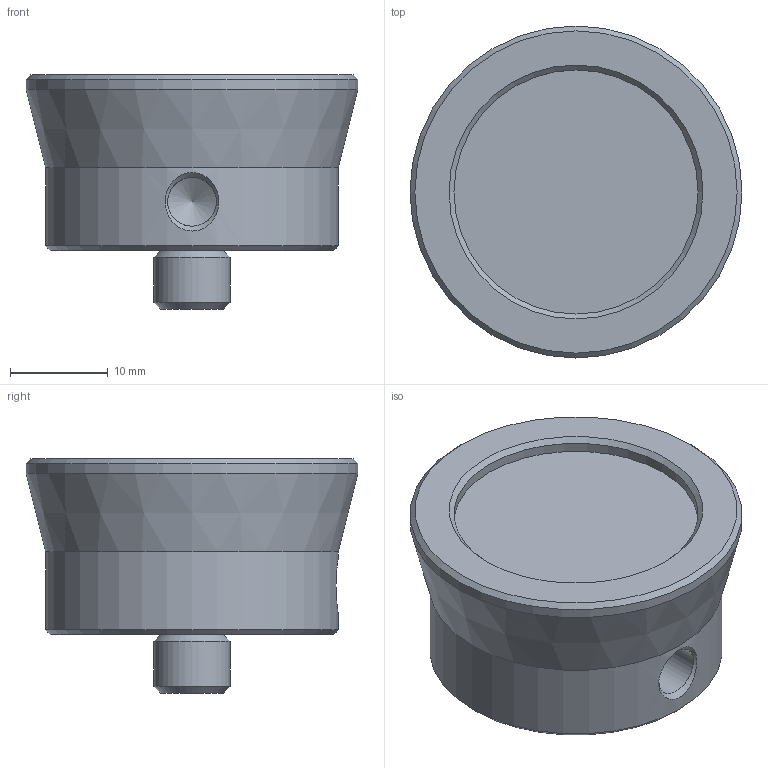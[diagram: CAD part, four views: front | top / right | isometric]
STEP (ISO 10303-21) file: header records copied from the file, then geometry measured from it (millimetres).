
FILE_DESCRIPTION(/* description */ (''),/* implementation_level */ '2;1');
FILE_NAME(/* name */ 'A-9908-0760-01-B XL UNIVERSAL BASE ADAPTOR.stp',/* time_stamp */ '2016-02-26T11:06:34+00:00',/* author */ (''),/* organization */ (''),/* preprocessor_version */ 'ST-DEVELOPER v11',/* originating_system */ 'SIEMENS PLM Software NX 7.5',/* authorisation */ '');
FILE_SCHEMA (('AUTOMOTIVE_DESIGN { 1 0 10303 214 1 1 1 1 }'));
Length unit declared in the file: millimetre
Products named in the file (1): LA-9908-0760-01_B
Bounding box: 34 x 34 x 24 mm (x, y, z)
Volume: 13108.2 mm3; surface area: 3759.7 mm2
Topology: 1 solids, 1 shells, 20 faces, 39 edges, 24 vertices
Faces by surface type: cone 9, cylinder 6, plane 5
Full cylindrical faces by diameter (mm): 5 x1, 6.4 x1, 7.794 x1, 25 x1, 30 x1, 34 x1
Entity records: 512 total; most frequent: CARTESIAN_POINT 117, DIRECTION 78, AXIS2_PLACEMENT_3D 39, EDGE_LOOP 38, ORIENTED_EDGE 38, FACE_BOUND 37, ADVANCED_FACE 20, VERTEX_POINT 20
